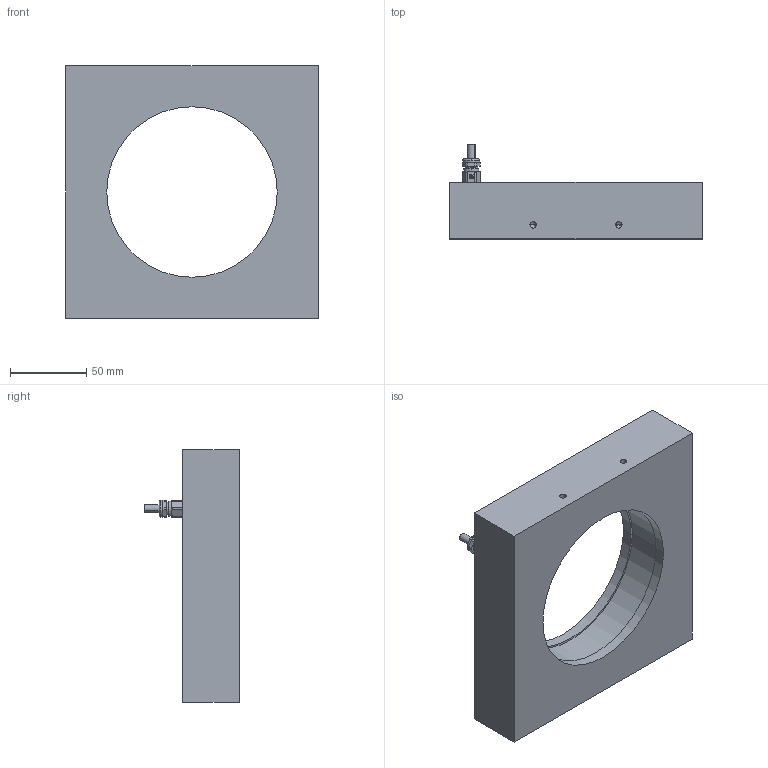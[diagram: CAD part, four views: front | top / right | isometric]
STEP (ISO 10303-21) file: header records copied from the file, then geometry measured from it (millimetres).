
FILE_DESCRIPTION (( 'STEP AP214' ), '1' );
FILE_NAME ('L1007.STEP', '2021-03-15T12:49:19', ( '' ), ( '' ), 'SwSTEP 2.0', 'SolidWorks 2021', '' );
FILE_SCHEMA (( 'AUTOMOTIVE_DESIGN' ));
Length unit declared in the file: millimetre
Products named in the file (4): SKINDICHT_MINI_M_8x1; L1G001007,Gehäuse-einfach; Kabel ø5; L1007
Assembly tree (3 placements, depth 2):
  L1007
    L1G001007,Gehäuse-einfach
    Kabel ø5
    SKINDICHT_MINI_M_8x1
Bounding box: 165 x 61.83 x 165 mm (x, y, z)
Volume: 635838.4 mm3; surface area: 76442.8 mm2
Topology: 3 solids, 4 shells, 155 faces, 377 edges, 228 vertices
Faces by surface type: cylinder 69, plane 44, cone 34, torus 8
Entity records: 4861 total; most frequent: CARTESIAN_POINT 858, DIRECTION 827, ORIENTED_EDGE 722, EDGE_CURVE 361, AXIS2_PLACEMENT_3D 329, VERTEX_POINT 228, EDGE_LOOP 175, LINE 169
